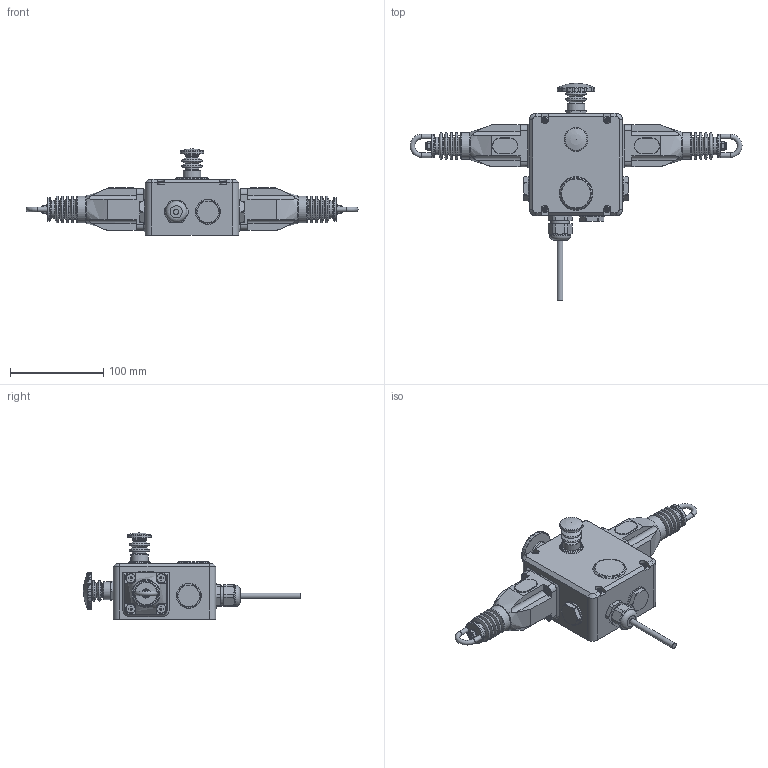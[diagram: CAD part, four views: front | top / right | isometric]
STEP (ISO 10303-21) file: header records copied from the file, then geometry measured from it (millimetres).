
FILE_DESCRIPTION(/* description */ ('STEP AP203'),/* implementation_level */ '2;1');
FILE_NAME(/* name */ 'ZB0074',/* time_stamp */ '2024-09-24T09:11:08+02:00',/* author */ ('License CC BY-ND 4.0'),/* organization */ ('CADENAS'),/* preprocessor_version */ 'ST-DEVELOPER v19.3',/* originating_system */ 'PARTsolutions',/* authorisation */ ' ');
FILE_SCHEMA (('CONFIG_CONTROL_DESIGN'));
Length unit declared in the file: millimetre
Products named in the file (1): ZB0074
Bounding box: 356.19 x 233.2 x 92.5 mm (x, y, z)
Volume: 919033 mm3; surface area: 95115.2 mm2
Topology: 1 solids, 1 shells, 787 faces, 1947 edges, 1224 vertices
Faces by surface type: plane 408, cylinder 217, torus 108, cone 44, bspline 8, sphere 2
Full cylindrical faces by diameter (mm): 1.4 x4, 4.8 x4, 5 x4, 5.3 x4, 6 x1, 7 x4, 8 x2, 9.5 x8, 9.8 x2, 12.2 x1, 14.97 x2, 15 x1, 19 x4, 19.7 x2, 20 x1, 23 x1, 25 x3, 26.8 x3, 28.6 x2
Entity records: 28069 total; most frequent: CARTESIAN_POINT 4454, DIRECTION 3828, ORIENTED_EDGE 3522, EDGE_CURVE 1761, AXIS2_PLACEMENT_3D 1437, VERTEX_POINT 1203, EDGE_LOOP 1018, FACE_BOUND 1018
